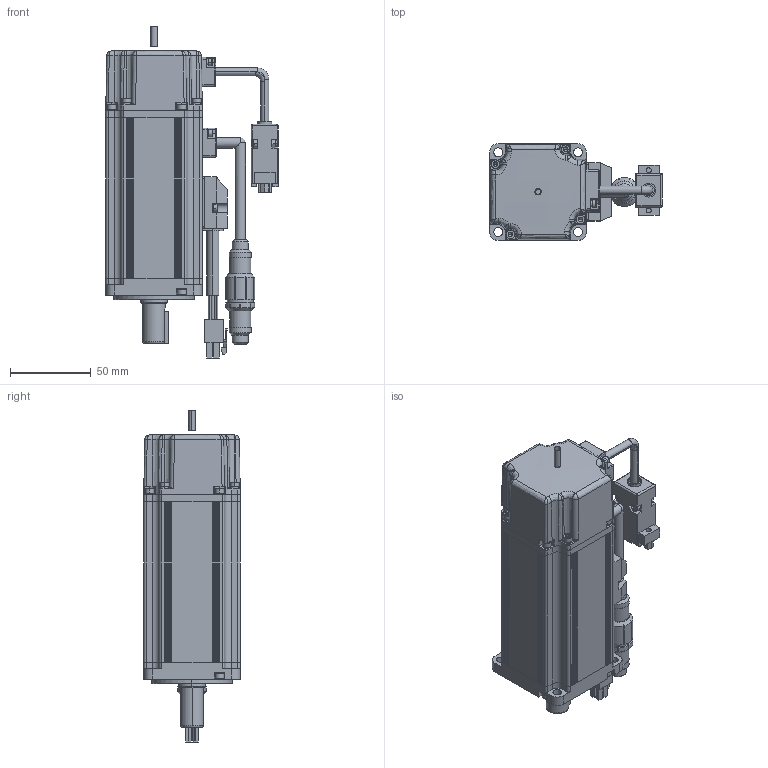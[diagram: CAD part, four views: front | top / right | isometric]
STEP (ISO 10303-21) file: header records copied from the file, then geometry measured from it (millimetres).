
FILE_DESCRIPTION((''),'2;1');
FILE_NAME('SV-ML06-0R2G-2-XAX-1000_ASM','2018-05-02T',('Administrator'),(''),'PRO/ENGINEER BY PARAMETRIC TECHNOLOGY CORPORATION, 2009440','PRO/ENGINEER BY PARAMETRIC TECHNOLOGY CORPORATION, 2009440','');
FILE_SCHEMA(('CONFIG_CONTROL_DESIGN'));
Products named in the file (32): 60-1A2-ZZ; 60-1A2-Z_ASM; ML60-QDG-A2; 60-MFQ; 60-ZYG; GB-T93-2R5; GB-T70-M2R5X8; OQ-52X1; GB-T93-3; GB-T70-M3X16; GB-T9877-17X28X4; 60-QA2_ASM; 60-1A2-JK; GB-T97-3; GB-T70-M3X5; DYX-CT; DYX-YXH; BZX-ZJ; XHXCT; XHX; BZX-ZJ_ASM; 60-1A2-DZ_ASM; 60-HA2-JDS; OQ-50X1; 60-HA2-JDS_ASM; 5X5X20; 60-FHZ-L; GB-T70-M3X12; 60-FHZ-ZJ_ASM; XHX-ZJ; DYX-ZJ; SV-ML06-0R2G-2-XAX-1000_ASM
Assembly tree (72 placements, depth 4):
  SV-ML06-0R2G-2-XAX-1000_ASM
    60-1A2-Z_ASM
      60-1A2-ZZ
    60-QA2_ASM
      ML60-QDG-A2
      60-MFQ
      60-ZYG
      GB-T93-2R5  x3
      GB-T70-M2R5X8  x3
      OQ-52X1
      GB-T93-3  x4
      GB-T70-M3X16  x4
      GB-T9877-17X28X4
    60-1A2-DZ_ASM
      60-1A2-JK
      GB-T97-3
      GB-T93-3
      GB-T70-M3X5
      DYX-CT
      DYX-YXH
      GB-T93-2R5  x2
      GB-T70-M2R5X8  x2
      BZX-ZJ_ASM
        BZX-ZJ
        XHXCT
        XHX
        GB-T93-2R5  x2
        GB-T70-M2R5X8  x2
    60-HA2-JDS_ASM
      60-HA2-JDS
      OQ-52X1
      OQ-50X1
      GB-T93-3  x4
      GB-T70-M3X16  x4
    5X5X20
    60-FHZ-ZJ_ASM
      60-FHZ-L
      XHXCT
      XHX
      GB-T93-2R5  x2
      GB-T70-M2R5X8  x2
      GB-T93-3  x4
      GB-T70-M3X12  x4
    XHX-ZJ
    DYX-ZJ
Bounding box: 107.09 x 60 x 206 mm (x, y, z)
Volume: 199355.8 mm3; surface area: 142121.5 mm2
Topology: 66 solids, 92 shells, 2960 faces, 6948 edges, 4268 vertices
Faces by surface type: plane 1508, cylinder 841, cone 402, torus 108, bspline 87, sphere 10, extrusion 4
Entity records: 70680 total; most frequent: CARTESIAN_POINT 19353, DIRECTION 10638, ORIENTED_EDGE 10392, EDGE_CURVE 5211, AXIS2_PLACEMENT_3D 3715, VERTEX_POINT 3332, VECTOR 3208, LINE 3204
